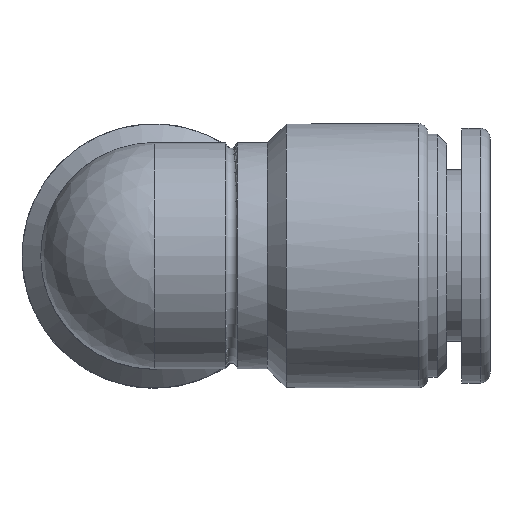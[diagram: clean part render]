
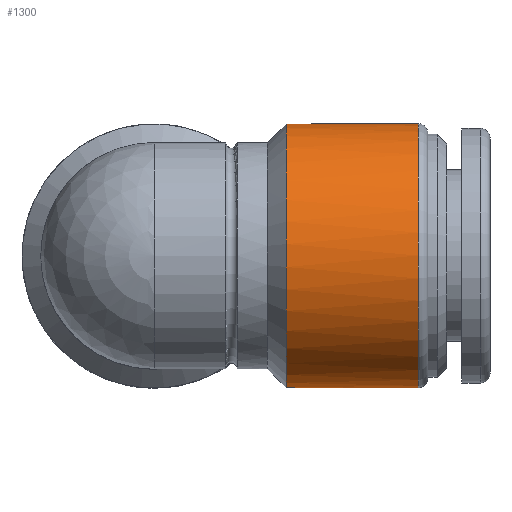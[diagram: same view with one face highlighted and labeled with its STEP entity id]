
A CAD part, top view. The second image highlights one B-rep face of the part: STEP entity #1300.
In plain terms, the highlighted cylindrical face has radius 7 mm (diameter 14 mm), a full revolution.
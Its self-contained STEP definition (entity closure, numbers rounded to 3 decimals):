
#1083=CARTESIAN_POINT('',(9.0,-0.75,-6.96));
#1084=VERTEX_POINT('',#1083);
#1091=CARTESIAN_POINT('',(7.,-0.75,-6.96));
#1092=VERTEX_POINT('',#1091);
#1093=CARTESIAN_POINT('',(7.,-0.75,-6.96));
#1094=DIRECTION('',(1.0,0.0,0.0));
#1095=VECTOR('',#1094,2.);
#1096=LINE('',#1093,#1095);
#1097=EDGE_CURVE('',#1092,#1084,#1096,.T.);
#1141=CARTESIAN_POINT('',(9.0,0.0,-7.));
#1142=VERTEX_POINT('',#1141);
#1174=CARTESIAN_POINT('',(7.,0.75,-6.96));
#1175=VERTEX_POINT('',#1174);
#1189=CARTESIAN_POINT('',(9.0,0.75,-6.96));
#1190=VERTEX_POINT('',#1189);
#1191=CARTESIAN_POINT('',(9.0,0.75,-6.96));
#1192=DIRECTION('',(-1.0,0.0,0.0));
#1193=VECTOR('',#1192,2.);
#1194=LINE('',#1191,#1193);
#1195=EDGE_CURVE('',#1190,#1175,#1194,.T.);
#1242=CARTESIAN_POINT('',(9.0,0.0,0.0));
#1243=DIRECTION('',(1.0,0.0,0.0));
#1244=DIRECTION('',(0.0,0.0,1.0));
#1245=AXIS2_PLACEMENT_3D('',#1242,#1243,#1244);
#1246=CIRCLE('',#1245,7.);
#1247=EDGE_CURVE('',#1142,#1190,#1246,.T.);
#1259=CARTESIAN_POINT('',(9.0,0.0,0.0));
#1260=DIRECTION('',(1.0,0.0,0.0));
#1261=DIRECTION('',(0.0,0.0,1.0));
#1262=AXIS2_PLACEMENT_3D('',#1259,#1260,#1261);
#1263=CIRCLE('',#1262,7.);
#1264=EDGE_CURVE('',#1084,#1142,#1263,.T.);
#1271=CARTESIAN_POINT('',(6.,0.0,0.0));
#1272=DIRECTION('',(1.0,0.0,0.0));
#1273=DIRECTION('',(0.0,0.0,1.0));
#1274=AXIS2_PLACEMENT_3D('',#1271,#1272,#1273);
#1275=CYLINDRICAL_SURFACE('',#1274,7.);
#1276=CARTESIAN_POINT('',(14.,0.,-7.));
#1277=VERTEX_POINT('',#1276);
#1278=CARTESIAN_POINT('',(14.,0.0,0.0));
#1279=DIRECTION('',(1.0,0.0,0.0));
#1280=DIRECTION('',(0.0,0.0,1.0));
#1281=AXIS2_PLACEMENT_3D('',#1278,#1279,#1280);
#1282=CIRCLE('',#1281,7.);
#1283=EDGE_CURVE('',#1277,#1277,#1282,.T.);
#1284=ORIENTED_EDGE('',*,*,#1283,.F.);
#1285=EDGE_LOOP('',(#1284));
#1286=FACE_OUTER_BOUND('',#1285,.T.);
#1287=ORIENTED_EDGE('',*,*,#1097,.T.);
#1288=ORIENTED_EDGE('',*,*,#1264,.T.);
#1289=ORIENTED_EDGE('',*,*,#1247,.T.);
#1290=ORIENTED_EDGE('',*,*,#1195,.T.);
#1291=CARTESIAN_POINT('',(7.,0.0,0.0));
#1292=DIRECTION('',(-1.0,0.0,0.0));
#1293=DIRECTION('',(0.0,0.0,1.0));
#1294=AXIS2_PLACEMENT_3D('',#1291,#1292,#1293);
#1295=CIRCLE('',#1294,7.);
#1296=EDGE_CURVE('',#1092,#1175,#1295,.T.);
#1297=ORIENTED_EDGE('',*,*,#1296,.F.);
#1298=EDGE_LOOP('',(#1287,#1288,#1289,#1290,#1297));
#1299=FACE_BOUND('',#1298,.T.);
#1300=ADVANCED_FACE('',(#1286,#1299),#1275,.T.);
